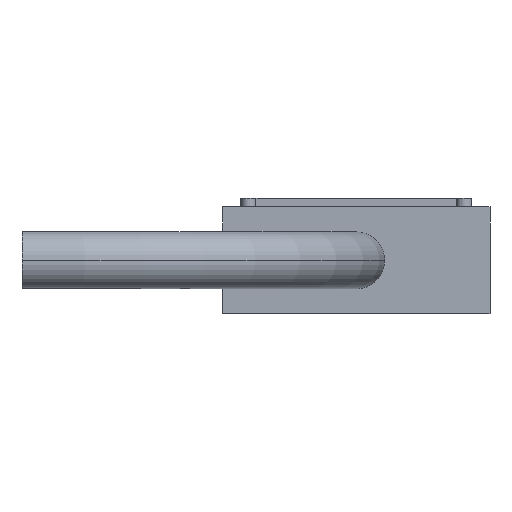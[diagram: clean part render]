
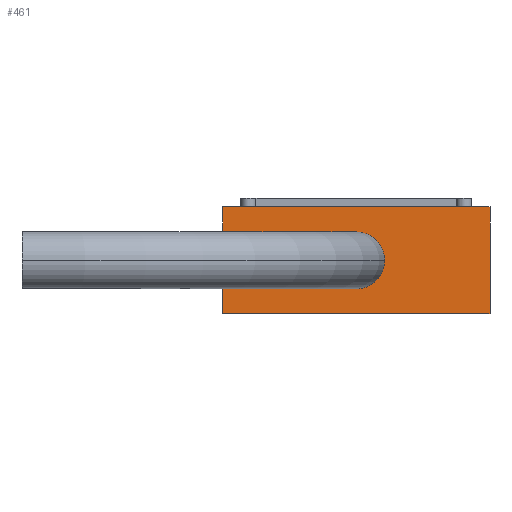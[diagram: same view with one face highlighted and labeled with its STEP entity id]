
A CAD part, front view. The second image highlights one B-rep face of the part: STEP entity #461.
In plain terms, the highlighted planar face has unit normal (0, -1, 0).
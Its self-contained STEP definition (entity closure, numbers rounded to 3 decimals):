
#101 = EDGE_CURVE ( 'NONE', #4037, #4030, #820, .T. ) ;
#102 = EDGE_CURVE ( 'NONE', #4031, #4038, #823, .T. ) ;
#103 = EDGE_CURVE ( 'NONE', #4648, #4645, #542, .T. ) ;
#243 = EDGE_CURVE ( 'NONE', #4645, #4648, #560, .T. ) ;
#417 = EDGE_CURVE ( 'NONE', #4038, #4037, #2460, .T. ) ;
#423 = EDGE_CURVE ( 'NONE', #4030, #4031, #2478, .T. ) ;
#461 = ADVANCED_FACE ( 'NONE', ( #1965, #1968 ), #2607, .T. ) ;
#542 = CIRCLE ( 'NONE', #3434, 4.25 ) ;
#560 = CIRCLE ( 'NONE', #3663, 4.25 ) ;
#789 = CARTESIAN_POINT ( 'NONE',  ( 0., 0., 0. ) ) ;
#820 = LINE ( 'NONE', #821, #3435 ) ;
#821 = CARTESIAN_POINT ( 'NONE',  ( 20., 0., 8. ) ) ;
#822 = DIRECTION ( 'NONE',  ( 0., 0., -1. ) ) ;
#823 = LINE ( 'NONE', #824, #3433 ) ;
#824 = CARTESIAN_POINT ( 'NONE',  ( -20., 0., 8. ) ) ;
#825 = DIRECTION ( 'NONE',  ( 0., 0., 1. ) ) ;
#826 = DIRECTION ( 'NONE',  ( 0., -1., 0. ) ) ;
#827 = DIRECTION ( 'NONE',  ( 0., 0., -1. ) ) ;
#1288 = CARTESIAN_POINT ( 'NONE',  ( 0., 0., 0. ) ) ;
#1289 = DIRECTION ( 'NONE',  ( 0., -1., 0. ) ) ;
#1290 = DIRECTION ( 'NONE',  ( 0., 0., -1. ) ) ;
#1891 = VECTOR ( 'NONE', #2462, 1000. ) ;
#1898 = VECTOR ( 'NONE', #2480, 1000. ) ;
#1965 = FACE_BOUND ( 'NONE', #4768, .T. ) ;
#1968 = FACE_OUTER_BOUND ( 'NONE', #4769, .T. ) ;
#1971 = AXIS2_PLACEMENT_3D ( 'NONE', #2608, #2609, #2610 ) ;
#2460 = LINE ( 'NONE', #2461, #1891 ) ;
#2461 = CARTESIAN_POINT ( 'NONE',  ( -20., 0., 8. ) ) ;
#2462 = DIRECTION ( 'NONE',  ( 1., 0., 0. ) ) ;
#2478 = LINE ( 'NONE', #2479, #1898 ) ;
#2479 = CARTESIAN_POINT ( 'NONE',  ( -20., 0., -8. ) ) ;
#2480 = DIRECTION ( 'NONE',  ( -1., 0., 0. ) ) ;
#2607 = PLANE ( 'NONE',  #1971 ) ;
#2608 = CARTESIAN_POINT ( 'NONE',  ( 0., 0., 0. ) ) ;
#2609 = DIRECTION ( 'NONE',  ( 0., -1., 0. ) ) ;
#2610 = DIRECTION ( 'NONE',  ( 0., 0., -1. ) ) ;
#2970 = CARTESIAN_POINT ( 'NONE',  ( 20., 0., -8. ) ) ;
#2971 = CARTESIAN_POINT ( 'NONE',  ( -20., 0., -8. ) ) ;
#2977 = CARTESIAN_POINT ( 'NONE',  ( 20., 0., 8. ) ) ;
#2978 = CARTESIAN_POINT ( 'NONE',  ( -20., 0., 8. ) ) ;
#3140 = CARTESIAN_POINT ( 'NONE',  ( 4.25, 0., 0. ) ) ;
#3143 = CARTESIAN_POINT ( 'NONE',  ( -4.25, 0., 0. ) ) ;
#3433 = VECTOR ( 'NONE', #825, 1000. ) ;
#3434 = AXIS2_PLACEMENT_3D ( 'NONE', #789, #826, #827 ) ;
#3435 = VECTOR ( 'NONE', #822, 1000. ) ;
#3663 = AXIS2_PLACEMENT_3D ( 'NONE', #1288, #1289, #1290 ) ;
#4030 = VERTEX_POINT ( 'NONE', #2970 ) ;
#4031 = VERTEX_POINT ( 'NONE', #2971 ) ;
#4037 = VERTEX_POINT ( 'NONE', #2977 ) ;
#4038 = VERTEX_POINT ( 'NONE', #2978 ) ;
#4241 = ORIENTED_EDGE ( 'NONE', *, *, #101, .F. ) ;
#4242 = ORIENTED_EDGE ( 'NONE', *, *, #103, .F. ) ;
#4243 = ORIENTED_EDGE ( 'NONE', *, *, #423, .F. ) ;
#4244 = ORIENTED_EDGE ( 'NONE', *, *, #243, .F. ) ;
#4245 = ORIENTED_EDGE ( 'NONE', *, *, #417, .F. ) ;
#4246 = ORIENTED_EDGE ( 'NONE', *, *, #102, .F. ) ;
#4645 = VERTEX_POINT ( 'NONE', #3140 ) ;
#4648 = VERTEX_POINT ( 'NONE', #3143 ) ;
#4768 = EDGE_LOOP ( 'NONE', ( #4242, #4244 ) ) ;
#4769 = EDGE_LOOP ( 'NONE', ( #4241, #4245, #4246, #4243 ) ) ;
